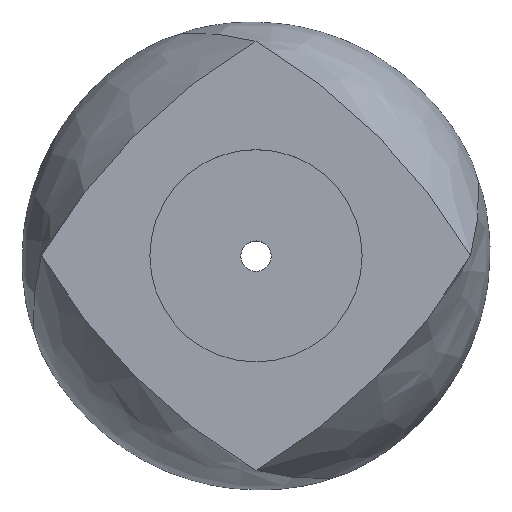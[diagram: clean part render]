
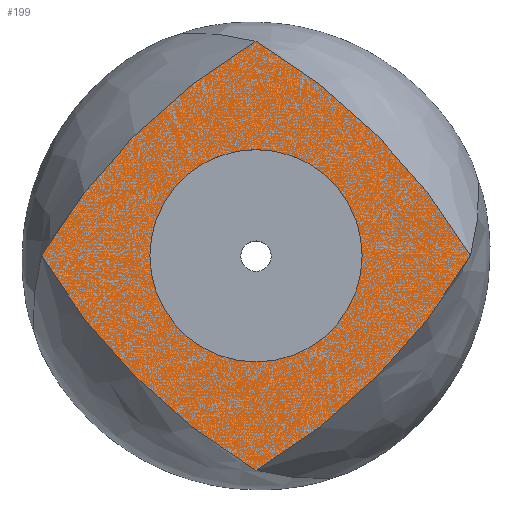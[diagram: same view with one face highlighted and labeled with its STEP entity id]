
A CAD part, top view. The second image highlights one B-rep face of the part: STEP entity #199.
In plain terms, the highlighted planar face has unit normal (0, 0, 1).
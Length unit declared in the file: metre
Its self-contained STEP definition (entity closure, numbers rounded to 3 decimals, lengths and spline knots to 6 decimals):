
#199 = ADVANCED_FACE( '', ( #278, #279 ), #280, .T. );
#278 = FACE_BOUND( '', #807, .T. );
#279 = FACE_OUTER_BOUND( '', #808, .T. );
#280 = PLANE( '', #809 );
#807 = EDGE_LOOP( '', ( #1611 ) );
#808 = EDGE_LOOP( '', ( #1612, #1613, #1614, #1615 ) );
#809 = AXIS2_PLACEMENT_3D( '', #1616, #1617, #1618 );
#1611 = ORIENTED_EDGE( '', *, *, #1922, .F. );
#1612 = ORIENTED_EDGE( '', *, *, #1864, .T. );
#1613 = ORIENTED_EDGE( '', *, *, #1893, .T. );
#1614 = ORIENTED_EDGE( '', *, *, #1923, .T. );
#1615 = ORIENTED_EDGE( '', *, *, #1914, .T. );
#1616 = CARTESIAN_POINT( '', ( -0.101575, -0.101575, 0.1 ) );
#1617 = DIRECTION( '', ( 0., 0., 1. ) );
#1618 = DIRECTION( '', ( 1., 0., 0. ) );
#1864 = EDGE_CURVE( '', #1974, #1972, #1975, .T. );
#1893 = EDGE_CURVE( '', #1972, #2025, #2027, .T. );
#1914 = EDGE_CURVE( '', #2055, #1974, #2061, .T. );
#1922 = EDGE_CURVE( '', #2074, #2074, #2075, .T. );
#1923 = EDGE_CURVE( '', #2025, #2055, #2076, .T. );
#1972 = VERTEX_POINT( '', #2309 );
#1974 = VERTEX_POINT( '', #2315 );
#1975 = CIRCLE( '', #2316, 0.2 );
#2025 = VERTEX_POINT( '', #2433 );
#2027 = CIRCLE( '', #2439, 0.2 );
#2055 = VERTEX_POINT( '', #2666 );
#2061 = CIRCLE( '', #2685, 0.2 );
#2074 = VERTEX_POINT( '', #2798 );
#2075 = CIRCLE( '', #2799, 0.035 );
#2076 = CIRCLE( '', #2800, 0.2 );
#2309 = CARTESIAN_POINT( '', ( 0., 0.070711, 0.1 ) );
#2315 = CARTESIAN_POINT( '', ( 0.070711, 0., 0.1 ) );
#2316 = AXIS2_PLACEMENT_3D( '', #2854, #2855, #2856 );
#2433 = CARTESIAN_POINT( '', ( -0.070711, 0., 0.1 ) );
#2439 = AXIS2_PLACEMENT_3D( '', #2869, #2870, #2871 );
#2666 = CARTESIAN_POINT( '', ( 0., -0.070711, 0.1 ) );
#2685 = AXIS2_PLACEMENT_3D( '', #2882, #2883, #2884 );
#2798 = CARTESIAN_POINT( '', ( 0.035, 0., 0.1 ) );
#2799 = AXIS2_PLACEMENT_3D( '', #2888, #2889, #2890 );
#2800 = AXIS2_PLACEMENT_3D( '', #2891, #2892, #2893 );
#2854 = CARTESIAN_POINT( '', ( -0.101575, -0.101575, 0.1 ) );
#2855 = DIRECTION( '', ( 0., 0., 1. ) );
#2856 = DIRECTION( '', ( 1., 0., 0. ) );
#2869 = CARTESIAN_POINT( '', ( 0.101575, -0.101575, 0.1 ) );
#2870 = DIRECTION( '', ( 0., 0., 1. ) );
#2871 = DIRECTION( '', ( 1., 0., 0. ) );
#2882 = CARTESIAN_POINT( '', ( -0.101575, 0.101575, 0.1 ) );
#2883 = DIRECTION( '', ( 0., 0., 1. ) );
#2884 = DIRECTION( '', ( 1., 0., 0. ) );
#2888 = CARTESIAN_POINT( '', ( 0., 0., 0.1 ) );
#2889 = DIRECTION( '', ( 0., 0., 1. ) );
#2890 = DIRECTION( '', ( 1., 0., 0. ) );
#2891 = CARTESIAN_POINT( '', ( 0.101575, 0.101575, 0.1 ) );
#2892 = DIRECTION( '', ( 0., 0., 1. ) );
#2893 = DIRECTION( '', ( 1., 0., 0. ) );
